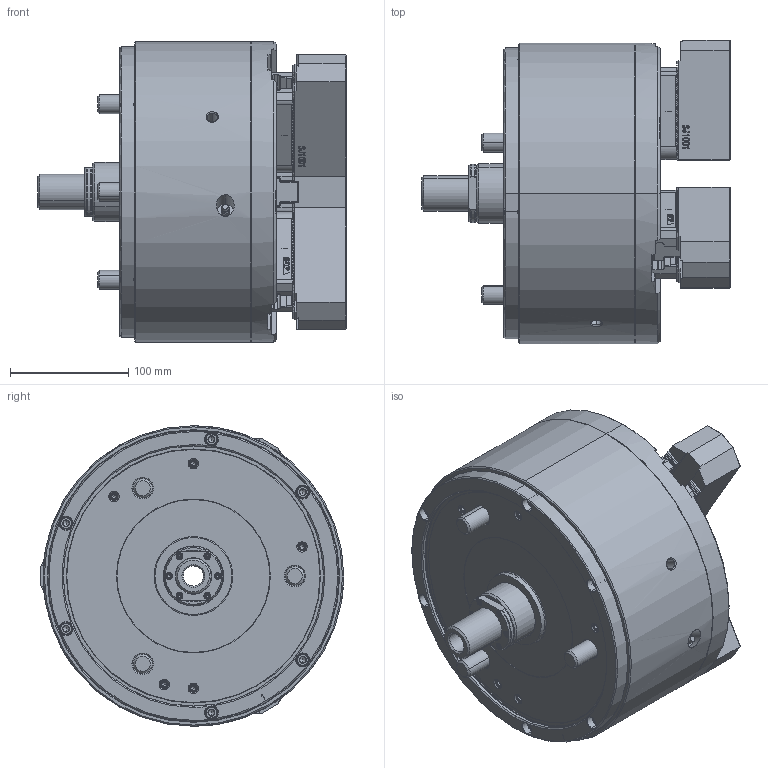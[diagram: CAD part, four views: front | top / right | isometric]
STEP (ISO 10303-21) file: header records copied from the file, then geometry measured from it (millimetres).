
FILE_DESCRIPTION (( 'STEP AP214' ), '1' );
FILE_NAME ('DL210_OC_ID.STEP', '2022-09-08T02:42:52', ( '' ), ( '' ), 'SwSTEP 2.0', 'SolidWorks 2020', '' );
FILE_SCHEMA (( 'AUTOMOTIVE_DESIGN' ));
Length unit declared in the file: millimetre
Products named in the file (5): DL210_OC_ID; 61P458879; 0030114040; 61P390757; 結合DL210_OC_ID^DL210
Assembly tree (13 placements, depth 2):
  DL210_OC_ID
    61P390757  x3
    61P458879  x3
    0030114040  x6
    結合DL210_OC_ID^DL210
Bounding box: 260.3 x 256.4 x 254 mm (x, y, z)
Volume: 7088373.3 mm3; surface area: 475723.1 mm2
Topology: 13 solids, 57 shells, 6020 faces, 16568 edges, 10779 vertices
Faces by surface type: plane 3769, cylinder 825, bspline 710, cone 678, torus 38
Entity records: 175928 total; most frequent: CARTESIAN_POINT 59271, ORIENTED_EDGE 26380, DIRECTION 20618, EDGE_CURVE 13190, VECTOR 8988, LINE 8988, VERTEX_POINT 8664, AXIS2_PLACEMENT_3D 5815
